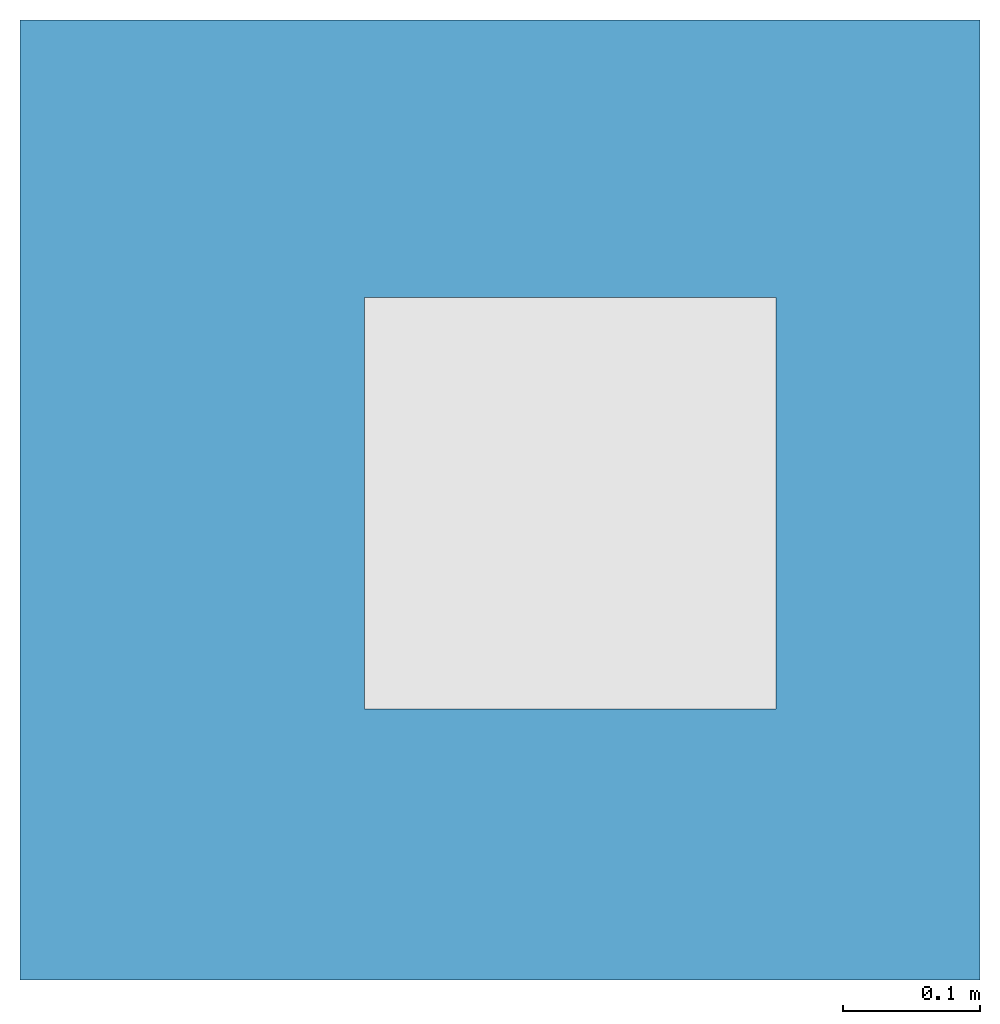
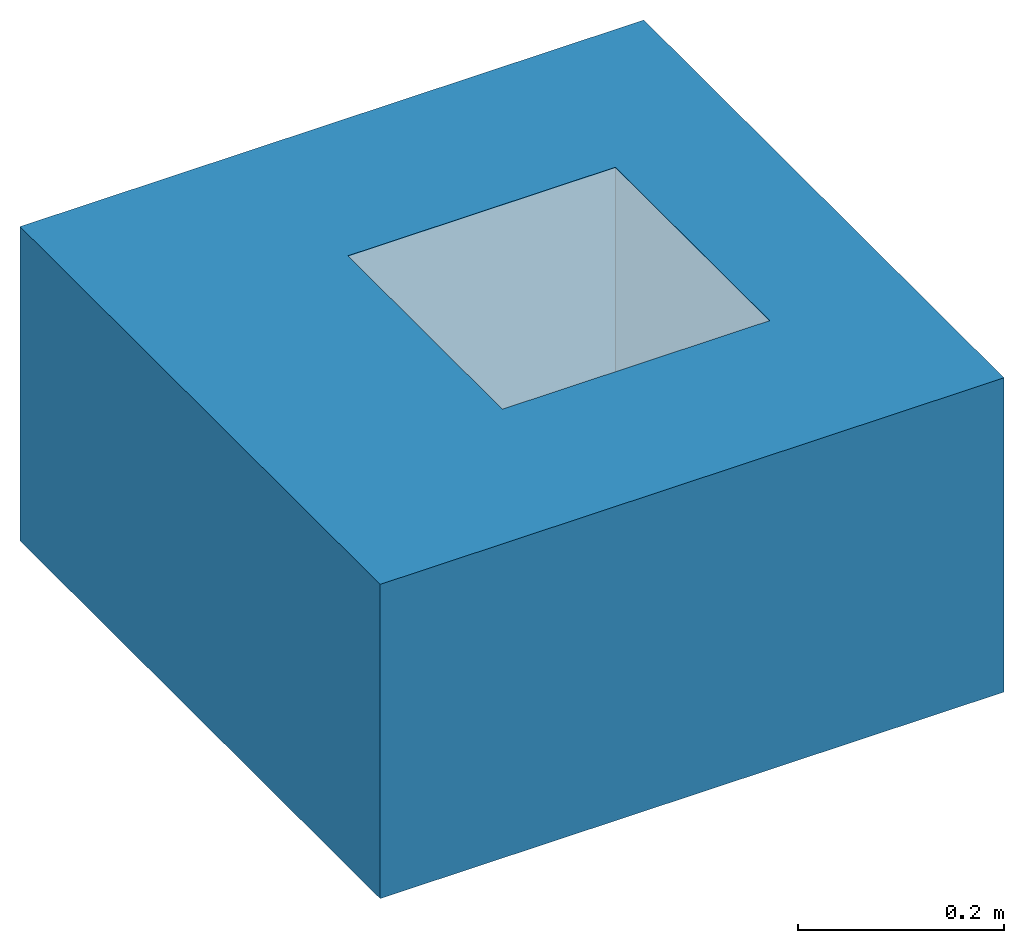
# One storey, incomplete: 1 slab.
"""IFC2X3 building model written with IfcOpenShell, lengths in millimetres."""

from ifc_helpers import new_model, entity, si_unit, converted_unit, derived_unit, direction, frame, frame_2d, origin, place, context, subcontext, project, spatial, polyline, rectangle, extrude, clip, bounded_halfspace, material, layer, layer_set, layer_usage, element, save


model = new_model("IFC2X3")

# Units and contexts
model_context = context("Model", 3, precision=1e-05, world=origin(), true_north=direction((2.0, 6.12303176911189e-17, 1.0)))
context_of_model = context(None, 3, precision=1e-05, world=origin(), true_north=direction((2.0, 6.12303176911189e-17, 1.0)))
body_context = subcontext(model_context, "Body", "Model", "MODEL_VIEW")
ifc_project = project(units=[si_unit("LENGTHUNIT", "METRE", prefix="MILLI"), converted_unit("AREAUNIT", "SQUARE FOOT", entity("IfcRatioMeasure", 0.09290304), si_unit("AREAUNIT", "SQUARE_METRE"), dimensions=[2, 0, 0, 0, 0, 0, 0]), converted_unit("VOLUMEUNIT", "CUBIC FOOT", entity("IfcRatioMeasure", 0.028316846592), si_unit("VOLUMEUNIT", "CUBIC_METRE"), dimensions=[3, 0, 0, 0, 0, 0, 0]), converted_unit("PLANEANGLEUNIT", "DEGREE", entity("IfcRatioMeasure", 0.0174532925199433), si_unit("PLANEANGLEUNIT", "RADIAN"), dimensions=[0, 0, 0, 0, 0, 0, 0]), si_unit("MASSUNIT", "GRAM", prefix="KILO"), si_unit("TIMEUNIT", "SECOND"), si_unit("THERMODYNAMICTEMPERATUREUNIT", "KELVIN"), derived_unit("THERMALTRANSMITTANCEUNIT", [(si_unit("MASSUNIT", "GRAM", prefix="KILO"), 1), (si_unit("THERMODYNAMICTEMPERATUREUNIT", "KELVIN"), -1), (si_unit("TIMEUNIT", "SECOND"), -3)]), derived_unit("VOLUMETRICFLOWRATEUNIT", [(si_unit("LENGTHUNIT", "METRE"), 3), (si_unit("TIMEUNIT", "SECOND"), -1)]), si_unit("POWERUNIT", "WATT")], contexts=[model_context, context_of_model])

# Site, building, storey
site_placement = place(None, origin())
site = spatial("IfcSite", under=ifc_project, at=site_placement, Name="Default", CompositionType="ELEMENT")
building_placement = place(site_placement, origin())
building = spatial("IfcBuilding", under=site, at=building_placement, CompositionType="ELEMENT")
storey_placement = place(building_placement, origin())
storey = spatial("IfcBuildingStorey", under=building, at=storey_placement, Name="Level 1", CompositionType="ELEMENT", Elevation=0.0)

# Slab
ifc_material_1 = material(Name="Plywood, Sheathing")
ifc_layer_1 = layer(ifc_material_1, 68.0)
ifc_material_2 = material(Name="Default Floor")
ifc_layer_2 = layer(ifc_material_2, 304.8)
ifc_layer_set = layer_set([ifc_layer_1, ifc_layer_2], Name="Floor:Generic - 12\"")
ifc_layer_usage = layer_usage(ifc_layer_set, "AXIS3", "POSITIVE", 0.0)
slab_placement = place(storey_placement, origin())
element("IfcSlab", 1, at=slab_placement, inside=storey, material=ifc_layer_usage, Name="Floor:Generic - 12\"", ObjectType="Floor:Generic - 12\"", PredefinedType="FLOOR", context=body_context, shape_type="Clipping", body=[
    clip(extrude(rectangle(XDim=700.0, YDim=699.999999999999, at=frame_2d((-1.4210854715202e-13, 1.08002495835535e-12), x_axis=(1.0, 0.0))), frame((-9948.06277217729, 2742.60708548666, 0.0), z_axis=(0.0, 0.0, -1.0), x_axis=(0.0, 1.0, 0.0)), (0.0, 0.0, 1.0), 372.800000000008), bounded_halfspace(frame((-9746.75987419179, 2900.3626883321, -315.0)), False, frame((-9948.06277217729, 2742.60708548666, 0.0), z_axis=(0.0, 0.0, -1.0), x_axis=(0.0, 1.0, 0.0)), polyline([(-152.244397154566, 201.302897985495), (147.75560284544, 201.302897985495), (147.755602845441, -98.6971020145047), (-152.244397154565, -98.6971020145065), (-152.244397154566, 201.302897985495)]))),
])

save(model, "model.ifc")
